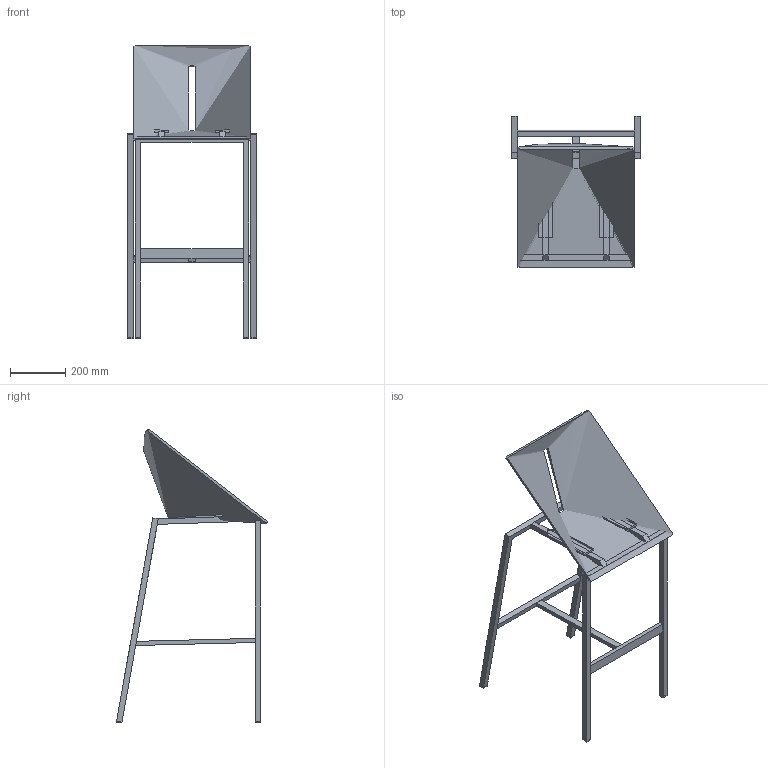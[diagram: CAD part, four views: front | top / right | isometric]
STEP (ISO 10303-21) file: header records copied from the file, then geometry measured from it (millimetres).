
FILE_DESCRIPTION(/* description */ (''),/* implementation_level */ '2;1');
FILE_NAME(/* name */ 'TW4012~1',/* time_stamp */ '2016-06-28T23:20:42+02:00',/* author */ (''),/* organization */ (''),/* preprocessor_version */ 'ST-DEVELOPER v15',/* originating_system */ '',/* authorisation */ '');
FILE_SCHEMA (('CONFIG_CONTROL_DESIGN'));
Length unit declared in the file: millimetre
Products named in the file (1): Document
Bounding box: 465 x 547.92 x 1060.95 mm (x, y, z)
Volume: 2641264.3 mm3; surface area: 778902.2 mm2
Topology: 1 solids, 8 shells, 94 faces, 260 edges, 168 vertices
Faces by surface type: plane 70, bspline 24
Entity records: 5295 total; most frequent: CARTESIAN_POINT 3543, ORIENTED_EDGE 472, EDGE_CURVE 257, B_SPLINE_CURVE_WITH_KNOTS 231, VERTEX_POINT 164, EDGE_LOOP 99, ADVANCED_FACE 94, FACE_OUTER_BOUND 94
